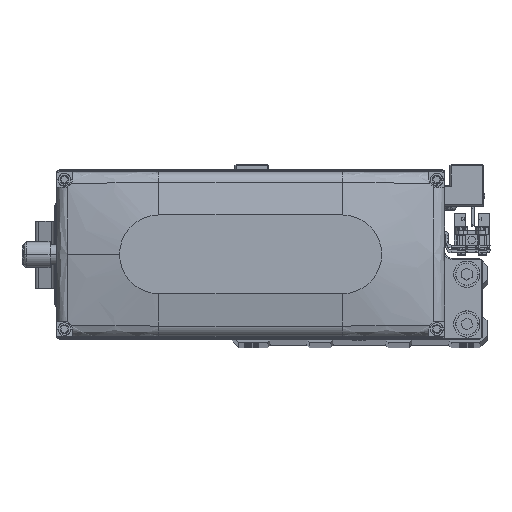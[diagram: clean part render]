
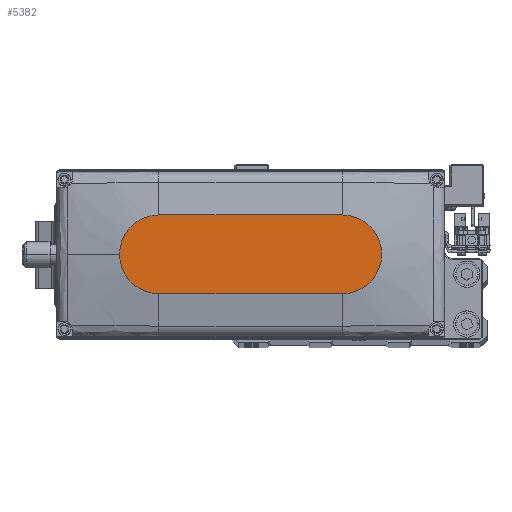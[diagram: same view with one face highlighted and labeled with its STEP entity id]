
A CAD part, top view. The second image highlights one B-rep face of the part: STEP entity #5382.
In plain terms, the highlighted planar face has unit normal (0, 0, 1).
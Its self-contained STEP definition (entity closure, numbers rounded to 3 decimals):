
#819 = DIRECTION ( 'NONE',  ( 0., 0., 1. ) ) ;
#1502 = AXIS2_PLACEMENT_3D ( 'NONE', #2198, #16004, #29810 ) ;
#2198 = CARTESIAN_POINT ( 'NONE',  ( -35., 0., 35. ) ) ;
#2539 = CARTESIAN_POINT ( 'NONE',  ( 35., -15., 35. ) ) ;
#2966 = ORIENTED_EDGE ( 'NONE', *, *, #8362, .T. ) ;
#3165 = AXIS2_PLACEMENT_3D ( 'NONE', #38785, #7825, #21613 ) ;
#4386 = CARTESIAN_POINT ( 'NONE',  ( 0., 0., 35. ) ) ;
#5081 = DIRECTION ( 'NONE',  ( 1., 0., 0. ) ) ;
#5382 = ADVANCED_FACE ( 'NONE', ( #21607 ), #35391, .T. ) ;
#5479 = ORIENTED_EDGE ( 'NONE', *, *, #35275, .T. ) ;
#7825 = DIRECTION ( 'NONE',  ( 0., 0., 1. ) ) ;
#8362 = EDGE_CURVE ( 'NONE', #22962, #38333, #30721, .T. ) ;
#11104 = DIRECTION ( 'NONE',  ( -1., 0., 0. ) ) ;
#11212 = AXIS2_PLACEMENT_3D ( 'NONE', #31838, #819, #14642 ) ;
#14642 = DIRECTION ( 'NONE',  ( 1., 0., 0. ) ) ;
#14875 = VERTEX_POINT ( 'NONE', #44491 ) ;
#15713 = ORIENTED_EDGE ( 'NONE', *, *, #37896, .T. ) ;
#16004 = DIRECTION ( 'NONE',  ( 0., 0., 1. ) ) ;
#18185 = DIRECTION ( 'NONE',  ( 0., 0., 1. ) ) ;
#20503 = VECTOR ( 'NONE', #11104, 1000. ) ;
#20664 = AXIS2_PLACEMENT_3D ( 'NONE', #4386, #18185, #31988 ) ;
#21025 = CIRCLE ( 'NONE', #1502, 15. ) ;
#21445 = VERTEX_POINT ( 'NONE', #2539 ) ;
#21607 = FACE_OUTER_BOUND ( 'NONE', #40742, .T. ) ;
#21613 = DIRECTION ( 'NONE',  ( 1., 0., 0. ) ) ;
#22289 = LINE ( 'NONE', #36067, #32080 ) ;
#22962 = VERTEX_POINT ( 'NONE', #28974 ) ;
#24611 = CARTESIAN_POINT ( 'NONE',  ( 35., 15., 35. ) ) ;
#28286 = LINE ( 'NONE', #42061, #20503 ) ;
#28974 = CARTESIAN_POINT ( 'NONE',  ( 50., 0., 35. ) ) ;
#29810 = DIRECTION ( 'NONE',  ( 1., 0., 0. ) ) ;
#30721 = CIRCLE ( 'NONE', #11212, 15. ) ;
#31838 = CARTESIAN_POINT ( 'NONE',  ( 35., 0., 35. ) ) ;
#31988 = DIRECTION ( 'NONE',  ( 1., 0., 0. ) ) ;
#32080 = VECTOR ( 'NONE', #5081, 1000. ) ;
#35201 = EDGE_CURVE ( 'NONE', #21445, #22962, #42167, .T. ) ;
#35275 = EDGE_CURVE ( 'NONE', #37683, #21445, #22289, .T. ) ;
#35391 = PLANE ( 'NONE',  #20664 ) ;
#36067 = CARTESIAN_POINT ( 'NONE',  ( -35., -15., 35. ) ) ;
#36171 = ORIENTED_EDGE ( 'NONE', *, *, #39756, .T. ) ;
#37381 = CARTESIAN_POINT ( 'NONE',  ( -35., -15., 35. ) ) ;
#37683 = VERTEX_POINT ( 'NONE', #37381 ) ;
#37896 = EDGE_CURVE ( 'NONE', #38333, #14875, #28286, .T. ) ;
#38333 = VERTEX_POINT ( 'NONE', #24611 ) ;
#38785 = CARTESIAN_POINT ( 'NONE',  ( 35., 0., 35. ) ) ;
#39756 = EDGE_CURVE ( 'NONE', #14875, #37683, #21025, .T. ) ;
#40414 = ORIENTED_EDGE ( 'NONE', *, *, #35201, .T. ) ;
#40742 = EDGE_LOOP ( 'NONE', ( #15713, #36171, #5479, #40414, #2966 ) ) ;
#42061 = CARTESIAN_POINT ( 'NONE',  ( -35., 15., 35. ) ) ;
#42167 = CIRCLE ( 'NONE', #3165, 15. ) ;
#44491 = CARTESIAN_POINT ( 'NONE',  ( -35., 15., 35. ) ) ;
